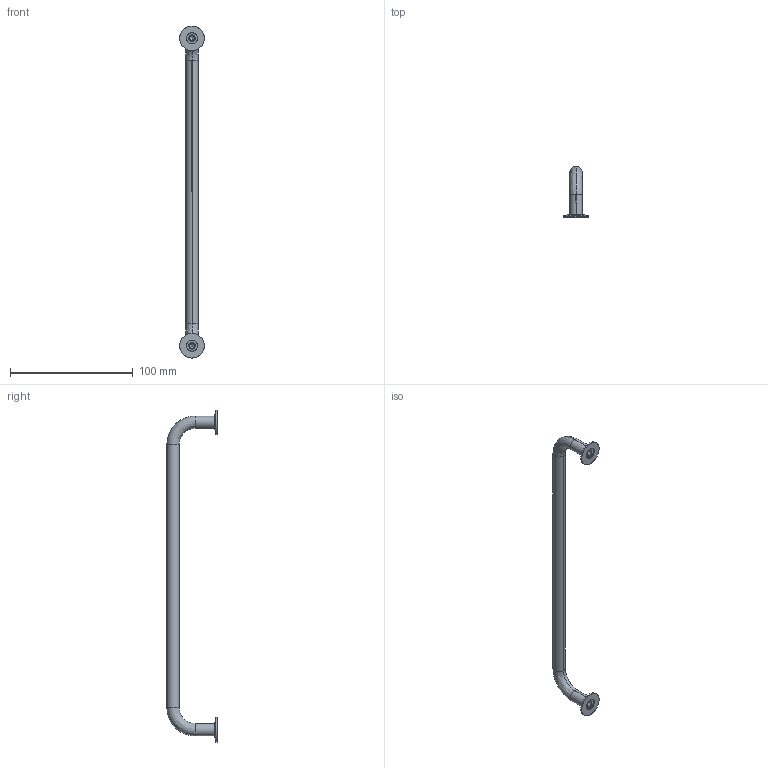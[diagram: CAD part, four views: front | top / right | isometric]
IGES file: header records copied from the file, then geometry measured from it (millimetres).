
Start section: SolidWorks IGES file using analytic representation for surfaces
Global section: file name: C:\Documents and Settings\IANO\Desktop\Temp File\Process pending\PCN pending\78700_v2\78700_v2_20170116_IGES\78700.W0525.igs; native system: SolidWorks 2009; preprocessor: SolidWorks 2009; author: IANO; date: 170310.095946; units: millimetre
Bounding box: 20 x 41 x 270 mm (x, y, z)
Surface area: 11289.8 mm2 (no closed solid volume)
Topology: 0 solids, 0 shells, 52 faces, 808 edges, 804 vertices
Faces by surface type: revolution 38, bspline 14
